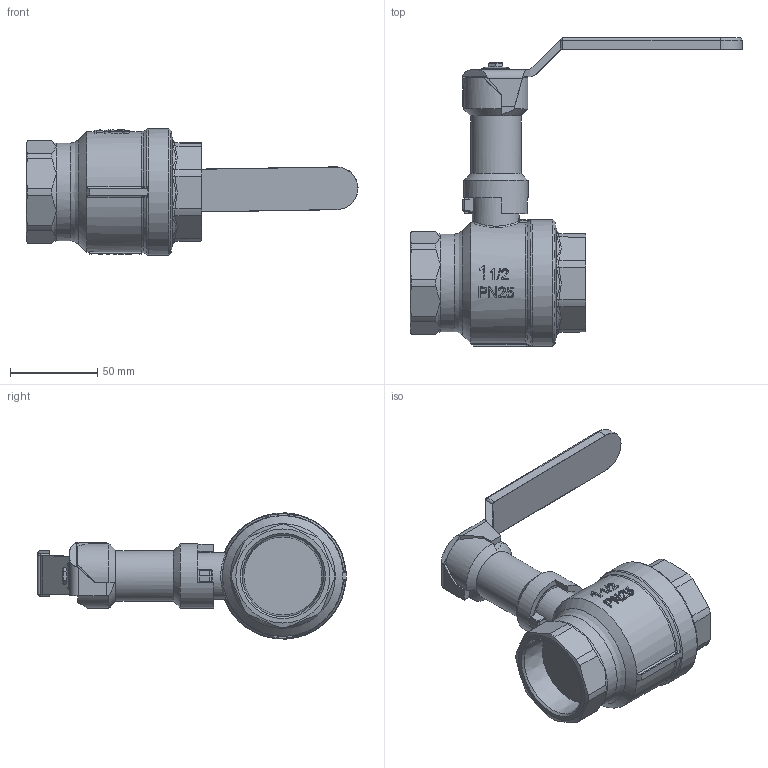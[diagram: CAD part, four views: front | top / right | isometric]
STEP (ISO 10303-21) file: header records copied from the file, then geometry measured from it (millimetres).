
FILE_DESCRIPTION((''),'2;1');
FILE_NAME('P:\Fastrack\53972_CRANE 3D\Ball Valves\Workplace\Crane Ball Valves\D171EXS_1 1-2in\D171EXS_1 1-2in.stp','2011-02-14T10:41:46',('btaylor'),(''),'Autodesk Inventor 2008','Autodesk Inventor 2008','');
FILE_SCHEMA(('AUTOMOTIVE_DESIGN { 1 0 10303 214 1 1 1 1 }'));
Length unit declared in the file: millimetre
Products named in the file (1): D171EXS_1 1-2in
Bounding box: 190.53 x 176.84 x 72.44 mm (x, y, z)
Volume: 356240.2 mm3; surface area: 60974.4 mm2
Topology: 2 solids, 2 shells, 1298 faces, 3586 edges, 2342 vertices
Faces by surface type: plane 724, bspline 387, cylinder 95, cone 80, torus 10, sphere 2
Full cylindrical faces by diameter (mm): 1.574 x1, 8.04 x1, 14 x1, 16 x1, 17 x1, 22 x2, 27 x1, 29 x2, 37 x1, 56 x1, 72.5 x1
Entity records: 68027 total; most frequent: CARTESIAN_POINT 37521, ORIENTED_EDGE 7074, DIRECTION 4675, EDGE_CURVE 3537, VERTEX_POINT 2328, VECTOR 2079, LINE 2079, EDGE_LOOP 1432
